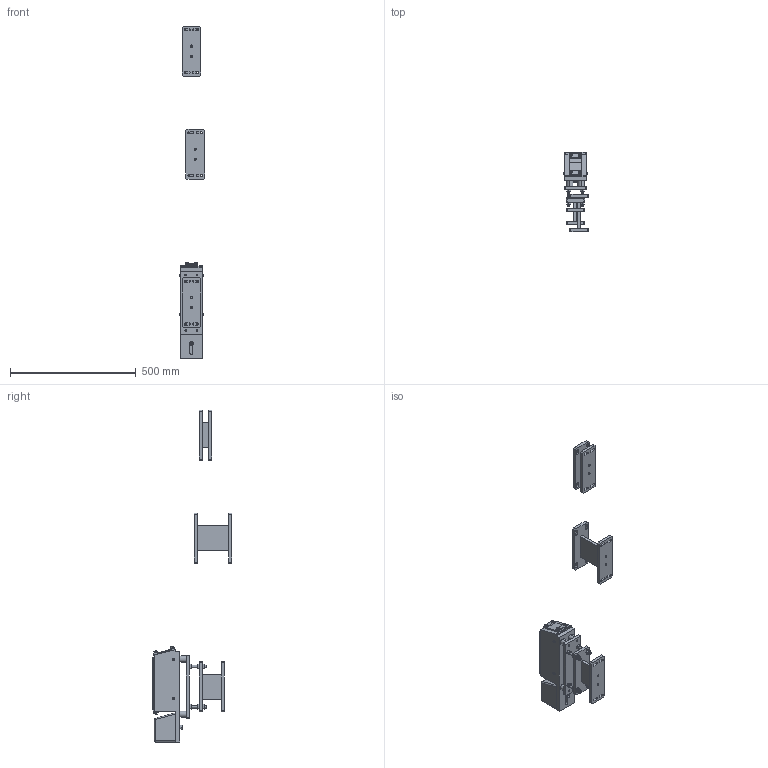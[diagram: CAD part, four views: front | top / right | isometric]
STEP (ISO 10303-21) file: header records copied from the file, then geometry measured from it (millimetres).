
FILE_DESCRIPTION (( 'STEP AP203' ), '1' );
FILE_NAME ('ZY200 假蚾芞(2) 湍蹟恇謂.STEP', '2024-12-14T03:30:03', ( '' ), ( '' ), 'SwSTEP 2.0', 'SolidWorks 2022', '' );
FILE_SCHEMA (( 'CONFIG_CONTROL_DESIGN' ));
Length unit declared in the file: millimetre
Products named in the file (1): ZY200  假蚾芞(2)  湍蹟恇謂
Bounding box: 100 x 317.6 x 1320.01 mm (x, y, z)
Volume: 4748709.8 mm3; surface area: 605234.4 mm2
Topology: 36 solids, 40 shells, 926 faces, 2302 edges, 1454 vertices
Faces by surface type: plane 488, cylinder 266, cone 144, torus 22, sphere 4, bspline 2
Entity records: 28774 total; most frequent: CARTESIAN_POINT 6475, DIRECTION 4649, ORIENTED_EDGE 4498, EDGE_CURVE 2249, AXIS2_PLACEMENT_3D 1683, VERTEX_POINT 1453, LINE 1283, VECTOR 1283
